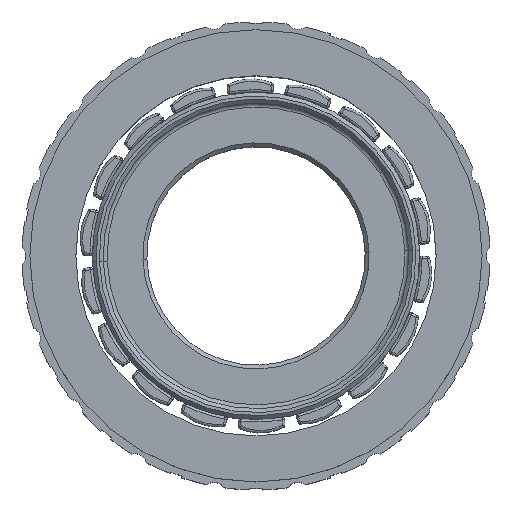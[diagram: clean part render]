
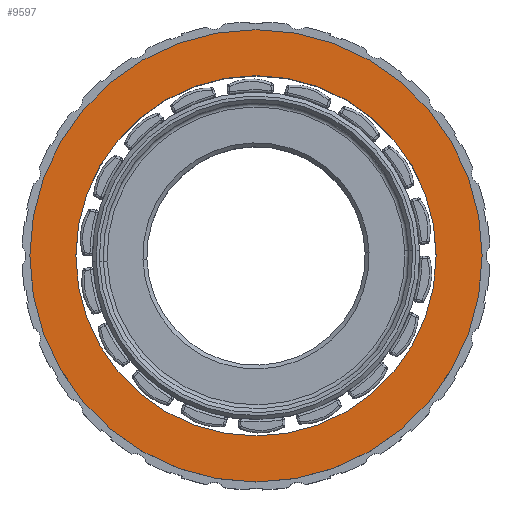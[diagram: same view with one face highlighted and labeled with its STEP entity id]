
A CAD part, top view. The second image highlights one B-rep face of the part: STEP entity #9597.
In plain terms, the highlighted planar face has unit normal (0, 0, 1).
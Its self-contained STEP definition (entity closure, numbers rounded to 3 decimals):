
#228 = DIRECTION ( 'NONE',  ( 1., 0., 0. ) ) ;
#567 = FACE_OUTER_BOUND ( 'NONE', #22545, .T. ) ;
#1009 = PLANE ( 'NONE',  #3211 ) ;
#1082 = ORIENTED_EDGE ( 'NONE', *, *, #13079, .T. ) ;
#1775 = AXIS2_PLACEMENT_3D ( 'NONE', #25494, #22792, #228 ) ;
#3211 = AXIS2_PLACEMENT_3D ( 'NONE', #18942, #25532, #10055 ) ;
#3760 = DIRECTION ( 'NONE',  ( 1., 0., 0. ) ) ;
#5167 = CARTESIAN_POINT ( 'NONE',  ( 23.1, 0., 22.2 ) ) ;
#5759 = CIRCLE ( 'NONE', #22316, 29. ) ;
#8629 = DIRECTION ( 'NONE',  ( 0., 0., 1. ) ) ;
#9253 = AXIS2_PLACEMENT_3D ( 'NONE', #19875, #19305, #23760 ) ;
#9597 = ADVANCED_FACE ( 'NONE', ( #567, #20754 ), #1009, .T. ) ;
#10055 = DIRECTION ( 'NONE',  ( 1., 0., 0. ) ) ;
#10755 = CIRCLE ( 'NONE', #1775, 23.1 ) ;
#11992 = CIRCLE ( 'NONE', #21472, 23.1 ) ;
#12362 = ORIENTED_EDGE ( 'NONE', *, *, #20825, .F. ) ;
#13079 = EDGE_CURVE ( 'NONE', #15557, #22775, #22016, .T. ) ;
#13220 = ORIENTED_EDGE ( 'NONE', *, *, #17350, .T. ) ;
#13345 = ORIENTED_EDGE ( 'NONE', *, *, #17625, .F. ) ;
#15217 = VERTEX_POINT ( 'NONE', #27654 ) ;
#15557 = VERTEX_POINT ( 'NONE', #24962 ) ;
#17350 = EDGE_CURVE ( 'NONE', #22775, #15557, #5759, .T. ) ;
#17625 = EDGE_CURVE ( 'NONE', #19995, #15217, #11992, .T. ) ;
#18942 = CARTESIAN_POINT ( 'NONE',  ( 0., 0., 22.2 ) ) ;
#19305 = DIRECTION ( 'NONE',  ( 0., 0., 1. ) ) ;
#19875 = CARTESIAN_POINT ( 'NONE',  ( 0., 0., 22.2 ) ) ;
#19995 = VERTEX_POINT ( 'NONE', #5167 ) ;
#20754 = FACE_BOUND ( 'NONE', #24895, .T. ) ;
#20825 = EDGE_CURVE ( 'NONE', #15217, #19995, #10755, .T. ) ;
#21430 = CARTESIAN_POINT ( 'NONE',  ( 29., 0., 22.2 ) ) ;
#21472 = AXIS2_PLACEMENT_3D ( 'NONE', #24090, #8629, #3760 ) ;
#22016 = CIRCLE ( 'NONE', #9253, 29. ) ;
#22316 = AXIS2_PLACEMENT_3D ( 'NONE', #22486, #24599, #24732 ) ;
#22486 = CARTESIAN_POINT ( 'NONE',  ( 0., 0., 22.2 ) ) ;
#22545 = EDGE_LOOP ( 'NONE', ( #1082, #13220 ) ) ;
#22775 = VERTEX_POINT ( 'NONE', #21430 ) ;
#22792 = DIRECTION ( 'NONE',  ( 0., 0., 1. ) ) ;
#23760 = DIRECTION ( 'NONE',  ( 1., 0., 0. ) ) ;
#24090 = CARTESIAN_POINT ( 'NONE',  ( 0., 0., 22.2 ) ) ;
#24599 = DIRECTION ( 'NONE',  ( 0., 0., 1. ) ) ;
#24732 = DIRECTION ( 'NONE',  ( 1., 0., 0. ) ) ;
#24895 = EDGE_LOOP ( 'NONE', ( #12362, #13345 ) ) ;
#24962 = CARTESIAN_POINT ( 'NONE',  ( -29., 0., 22.2 ) ) ;
#25494 = CARTESIAN_POINT ( 'NONE',  ( 0., 0., 22.2 ) ) ;
#25532 = DIRECTION ( 'NONE',  ( 0., 0., 1. ) ) ;
#27654 = CARTESIAN_POINT ( 'NONE',  ( -23.1, 0., 22.2 ) ) ;
